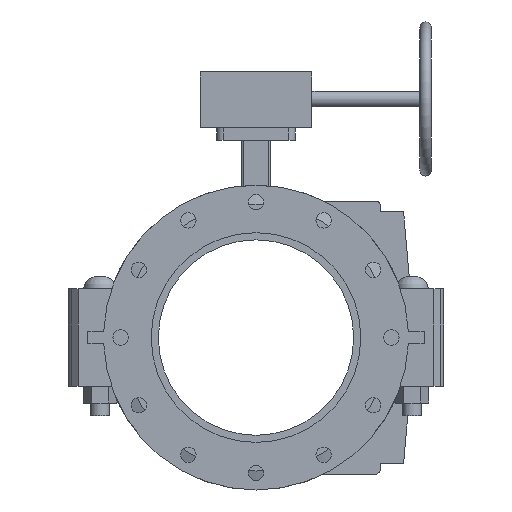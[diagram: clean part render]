
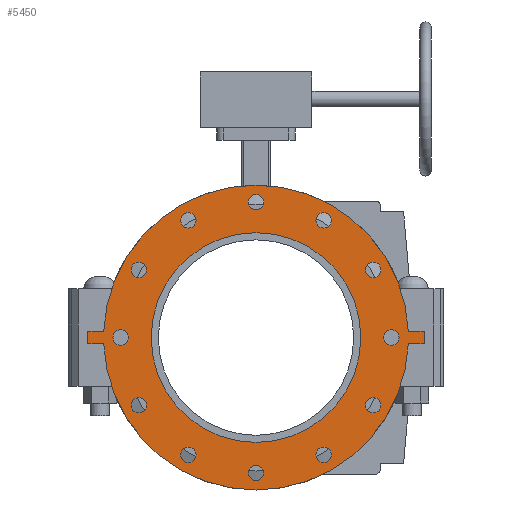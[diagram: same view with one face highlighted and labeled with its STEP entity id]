
A CAD part, front view. The second image highlights one B-rep face of the part: STEP entity #5450.
In plain terms, the highlighted planar face has unit normal (0, -1, 0) as drawn and (0, 0, -1) by its records, which use the part's own axes.
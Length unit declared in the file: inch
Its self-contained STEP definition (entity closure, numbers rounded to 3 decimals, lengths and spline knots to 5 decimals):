
#159=FACE_BOUND('',#742,.T.);
#160=FACE_BOUND('',#743,.T.);
#161=FACE_BOUND('',#744,.T.);
#162=FACE_BOUND('',#745,.T.);
#163=FACE_BOUND('',#746,.T.);
#164=FACE_BOUND('',#747,.T.);
#165=FACE_BOUND('',#748,.T.);
#166=FACE_BOUND('',#749,.T.);
#167=FACE_BOUND('',#750,.T.);
#168=FACE_BOUND('',#751,.T.);
#169=FACE_BOUND('',#752,.T.);
#170=FACE_BOUND('',#753,.T.);
#171=FACE_BOUND('',#754,.T.);
#242=PLANE('',#5970);
#430=FACE_OUTER_BOUND('',#741,.T.);
#741=EDGE_LOOP('',(#3585,#3586,#3587,#3588,#3589,#3590,#3591,#3592));
#742=EDGE_LOOP('',(#3593));
#743=EDGE_LOOP('',(#3594));
#744=EDGE_LOOP('',(#3595));
#745=EDGE_LOOP('',(#3596));
#746=EDGE_LOOP('',(#3597));
#747=EDGE_LOOP('',(#3598));
#748=EDGE_LOOP('',(#3599));
#749=EDGE_LOOP('',(#3600));
#750=EDGE_LOOP('',(#3601));
#751=EDGE_LOOP('',(#3602));
#752=EDGE_LOOP('',(#3603));
#753=EDGE_LOOP('',(#3604));
#754=EDGE_LOOP('',(#3605));
#1110=LINE('',#8367,#1487);
#1113=LINE('',#8373,#1490);
#1116=LINE('',#8378,#1493);
#1118=LINE('',#8383,#1495);
#1122=LINE('',#8390,#1499);
#1124=LINE('',#8393,#1501);
#1487=VECTOR('',#6687,0.3937);
#1490=VECTOR('',#6692,0.3937);
#1493=VECTOR('',#6697,0.3937);
#1495=VECTOR('',#6701,0.3937);
#1499=VECTOR('',#6707,0.3937);
#1501=VECTOR('',#6711,0.3937);
#1848=CIRCLE('',#5920,0.395);
#1850=CIRCLE('',#5923,0.395);
#1852=CIRCLE('',#5926,0.395);
#1854=CIRCLE('',#5929,0.395);
#1856=CIRCLE('',#5932,0.395);
#1858=CIRCLE('',#5935,0.395);
#1860=CIRCLE('',#5938,0.395);
#1862=CIRCLE('',#5941,0.395);
#1864=CIRCLE('',#5944,0.395);
#1866=CIRCLE('',#5947,0.395);
#1868=CIRCLE('',#5950,0.395);
#1870=CIRCLE('',#5953,0.395);
#1871=CIRCLE('',#5955,5.375);
#1873=CIRCLE('',#5958,7.815);
#1876=CIRCLE('',#5962,7.815);
#2186=VERTEX_POINT('',#8272);
#2188=VERTEX_POINT('',#8278);
#2190=VERTEX_POINT('',#8284);
#2192=VERTEX_POINT('',#8290);
#2194=VERTEX_POINT('',#8296);
#2196=VERTEX_POINT('',#8302);
#2198=VERTEX_POINT('',#8308);
#2200=VERTEX_POINT('',#8314);
#2202=VERTEX_POINT('',#8320);
#2204=VERTEX_POINT('',#8326);
#2206=VERTEX_POINT('',#8332);
#2208=VERTEX_POINT('',#8338);
#2209=VERTEX_POINT('',#8342);
#2211=VERTEX_POINT('',#8348);
#2213=VERTEX_POINT('',#8351);
#2215=VERTEX_POINT('',#8357);
#2218=VERTEX_POINT('',#8362);
#2219=VERTEX_POINT('',#8366);
#2221=VERTEX_POINT('',#8372);
#2223=VERTEX_POINT('',#8381);
#2224=VERTEX_POINT('',#8382);
#2714=EDGE_CURVE('',#2186,#2186,#1848,.T.);
#2717=EDGE_CURVE('',#2188,#2188,#1850,.T.);
#2720=EDGE_CURVE('',#2190,#2190,#1852,.T.);
#2723=EDGE_CURVE('',#2192,#2192,#1854,.T.);
#2726=EDGE_CURVE('',#2194,#2194,#1856,.T.);
#2729=EDGE_CURVE('',#2196,#2196,#1858,.T.);
#2732=EDGE_CURVE('',#2198,#2198,#1860,.T.);
#2735=EDGE_CURVE('',#2200,#2200,#1862,.T.);
#2738=EDGE_CURVE('',#2202,#2202,#1864,.T.);
#2741=EDGE_CURVE('',#2204,#2204,#1866,.T.);
#2744=EDGE_CURVE('',#2206,#2206,#1868,.T.);
#2747=EDGE_CURVE('',#2208,#2208,#1870,.T.);
#2748=EDGE_CURVE('',#2209,#2209,#1871,.T.);
#2752=EDGE_CURVE('',#2211,#2213,#1873,.T.);
#2758=EDGE_CURVE('',#2218,#2215,#1876,.T.);
#2759=EDGE_CURVE('',#2213,#2219,#1110,.T.);
#2762=EDGE_CURVE('',#2221,#2218,#1113,.T.);
#2765=EDGE_CURVE('',#2219,#2221,#1116,.T.);
#2767=EDGE_CURVE('',#2223,#2224,#1118,.T.);
#2771=EDGE_CURVE('',#2215,#2223,#1122,.T.);
#2773=EDGE_CURVE('',#2224,#2211,#1124,.T.);
#3585=ORIENTED_EDGE('',*,*,#2773,.F.);
#3586=ORIENTED_EDGE('',*,*,#2767,.F.);
#3587=ORIENTED_EDGE('',*,*,#2771,.F.);
#3588=ORIENTED_EDGE('',*,*,#2758,.F.);
#3589=ORIENTED_EDGE('',*,*,#2762,.F.);
#3590=ORIENTED_EDGE('',*,*,#2765,.F.);
#3591=ORIENTED_EDGE('',*,*,#2759,.F.);
#3592=ORIENTED_EDGE('',*,*,#2752,.F.);
#3593=ORIENTED_EDGE('',*,*,#2714,.T.);
#3594=ORIENTED_EDGE('',*,*,#2717,.T.);
#3595=ORIENTED_EDGE('',*,*,#2720,.T.);
#3596=ORIENTED_EDGE('',*,*,#2723,.T.);
#3597=ORIENTED_EDGE('',*,*,#2726,.T.);
#3598=ORIENTED_EDGE('',*,*,#2729,.T.);
#3599=ORIENTED_EDGE('',*,*,#2732,.T.);
#3600=ORIENTED_EDGE('',*,*,#2735,.T.);
#3601=ORIENTED_EDGE('',*,*,#2738,.T.);
#3602=ORIENTED_EDGE('',*,*,#2741,.T.);
#3603=ORIENTED_EDGE('',*,*,#2744,.T.);
#3604=ORIENTED_EDGE('',*,*,#2747,.T.);
#3605=ORIENTED_EDGE('',*,*,#2748,.T.);
#5450=ADVANCED_FACE('',(#430,#159,#160,#161,#162,#163,#164,#165,#166,#167,
#168,#169,#170,#171),#242,.F.);
#5920=AXIS2_PLACEMENT_3D('',#8274,#6583,#6584);
#5923=AXIS2_PLACEMENT_3D('',#8280,#6590,#6591);
#5926=AXIS2_PLACEMENT_3D('',#8286,#6597,#6598);
#5929=AXIS2_PLACEMENT_3D('',#8292,#6604,#6605);
#5932=AXIS2_PLACEMENT_3D('',#8298,#6611,#6612);
#5935=AXIS2_PLACEMENT_3D('',#8304,#6618,#6619);
#5938=AXIS2_PLACEMENT_3D('',#8310,#6625,#6626);
#5941=AXIS2_PLACEMENT_3D('',#8316,#6632,#6633);
#5944=AXIS2_PLACEMENT_3D('',#8322,#6639,#6640);
#5947=AXIS2_PLACEMENT_3D('',#8328,#6646,#6647);
#5950=AXIS2_PLACEMENT_3D('',#8334,#6653,#6654);
#5953=AXIS2_PLACEMENT_3D('',#8340,#6660,#6661);
#5955=AXIS2_PLACEMENT_3D('',#8343,#6664,#6665);
#5958=AXIS2_PLACEMENT_3D('',#8352,#6672,#6673);
#5962=AXIS2_PLACEMENT_3D('',#8364,#6683,#6684);
#5970=AXIS2_PLACEMENT_3D('',#8396,#6715,#6716);
#6583=DIRECTION('center_axis',(0.,0.,1.));
#6584=DIRECTION('ref_axis',(-0.5,-0.866,0.));
#6590=DIRECTION('center_axis',(0.,0.,1.));
#6591=DIRECTION('ref_axis',(-0.866,-0.5,0.));
#6597=DIRECTION('center_axis',(0.,0.,1.));
#6598=DIRECTION('ref_axis',(-1.,0.,0.));
#6604=DIRECTION('center_axis',(0.,0.,1.));
#6605=DIRECTION('ref_axis',(-0.866,0.5,0.));
#6611=DIRECTION('center_axis',(0.,0.,1.));
#6612=DIRECTION('ref_axis',(-0.5,0.866,0.));
#6618=DIRECTION('center_axis',(0.,0.,1.));
#6619=DIRECTION('ref_axis',(0.,1.,0.));
#6625=DIRECTION('center_axis',(0.,0.,1.));
#6626=DIRECTION('ref_axis',(0.5,0.866,0.));
#6632=DIRECTION('center_axis',(0.,0.,1.));
#6633=DIRECTION('ref_axis',(0.866,0.5,0.));
#6639=DIRECTION('center_axis',(0.,0.,1.));
#6640=DIRECTION('ref_axis',(1.,0.,0.));
#6646=DIRECTION('center_axis',(0.,0.,1.));
#6647=DIRECTION('ref_axis',(0.866,-0.5,0.));
#6653=DIRECTION('center_axis',(0.,0.,1.));
#6654=DIRECTION('ref_axis',(0.5,-0.866,0.));
#6660=DIRECTION('center_axis',(0.,0.,1.));
#6661=DIRECTION('ref_axis',(0.,-1.,0.));
#6664=DIRECTION('center_axis',(0.,0.,1.));
#6665=DIRECTION('ref_axis',(0.,-1.,0.));
#6672=DIRECTION('center_axis',(0.,0.,1.));
#6673=DIRECTION('ref_axis',(0.,1.,0.));
#6683=DIRECTION('center_axis',(0.,0.,1.));
#6684=DIRECTION('ref_axis',(0.,1.,0.));
#6687=DIRECTION('',(0.,-1.,0.));
#6692=DIRECTION('',(0.,1.,0.));
#6697=DIRECTION('',(1.,0.,0.));
#6701=DIRECTION('',(-1.,0.,0.));
#6707=DIRECTION('',(0.,1.,0.));
#6711=DIRECTION('',(0.,-1.,0.));
#6715=DIRECTION('center_axis',(0.,0.,1.));
#6716=DIRECTION('ref_axis',(0.,1.,0.));
#8272=CARTESIAN_POINT('',(-5.81272,3.81208,0.));
#8274=CARTESIAN_POINT('Origin',(-6.01022,3.47,0.));
#8278=CARTESIAN_POINT('',(-3.12792,6.20772,0.));
#8280=CARTESIAN_POINT('Origin',(-3.47,6.01022,0.));
#8284=CARTESIAN_POINT('',(0.395,6.94,0.));
#8286=CARTESIAN_POINT('Origin',(0.,6.94,0.));
#8290=CARTESIAN_POINT('',(3.81208,5.81272,0.));
#8292=CARTESIAN_POINT('Origin',(3.47,6.01022,0.));
#8296=CARTESIAN_POINT('',(6.20772,3.12792,0.));
#8298=CARTESIAN_POINT('Origin',(6.01022,3.47,0.));
#8302=CARTESIAN_POINT('',(6.94,-0.395,0.));
#8304=CARTESIAN_POINT('Origin',(6.94,0.,0.));
#8308=CARTESIAN_POINT('',(5.81272,-3.81208,0.));
#8310=CARTESIAN_POINT('Origin',(6.01022,-3.47,0.));
#8314=CARTESIAN_POINT('',(3.12792,-6.20772,0.));
#8316=CARTESIAN_POINT('Origin',(3.47,-6.01022,0.));
#8320=CARTESIAN_POINT('',(-0.395,-6.94,0.));
#8322=CARTESIAN_POINT('Origin',(0.,-6.94,0.));
#8326=CARTESIAN_POINT('',(-3.81208,-5.81272,0.));
#8328=CARTESIAN_POINT('Origin',(-3.47,-6.01022,0.));
#8332=CARTESIAN_POINT('',(-6.20772,-3.12792,0.));
#8334=CARTESIAN_POINT('Origin',(-6.01022,-3.47,0.));
#8338=CARTESIAN_POINT('',(-6.94,0.395,0.));
#8340=CARTESIAN_POINT('Origin',(-6.94,0.,0.));
#8342=CARTESIAN_POINT('',(0.,5.375,0.));
#8343=CARTESIAN_POINT('Origin',(0.,0.,0.));
#8348=CARTESIAN_POINT('',(-0.32,7.80845,0.));
#8351=CARTESIAN_POINT('',(-0.32,-7.80845,0.));
#8352=CARTESIAN_POINT('Origin',(0.,0.,0.));
#8357=CARTESIAN_POINT('',(0.32,7.80845,0.));
#8362=CARTESIAN_POINT('',(0.32,-7.80845,0.));
#8364=CARTESIAN_POINT('Origin',(0.,0.,0.));
#8366=CARTESIAN_POINT('',(-0.32,-8.625,0.));
#8367=CARTESIAN_POINT('',(-0.32,-7.80845,0.));
#8372=CARTESIAN_POINT('',(0.32,-8.625,0.));
#8373=CARTESIAN_POINT('',(0.32,-8.625,0.));
#8378=CARTESIAN_POINT('',(-0.32,-8.625,0.));
#8381=CARTESIAN_POINT('',(0.32,8.625,0.));
#8382=CARTESIAN_POINT('',(-0.32,8.625,0.));
#8383=CARTESIAN_POINT('',(0.32,8.625,0.));
#8390=CARTESIAN_POINT('',(0.32,7.80845,0.));
#8393=CARTESIAN_POINT('',(-0.32,8.625,0.));
#8396=CARTESIAN_POINT('Origin',(0.,8.24119,0.));
